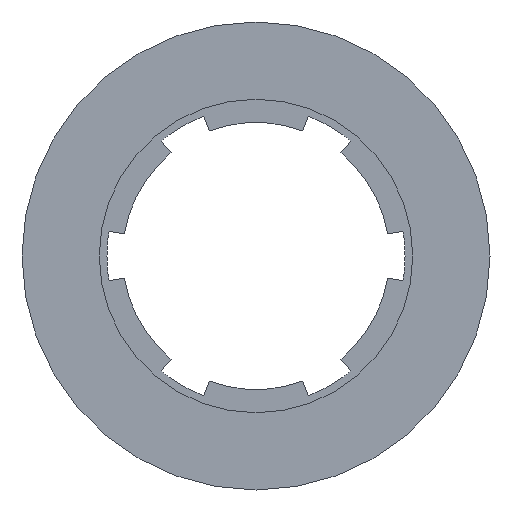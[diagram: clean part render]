
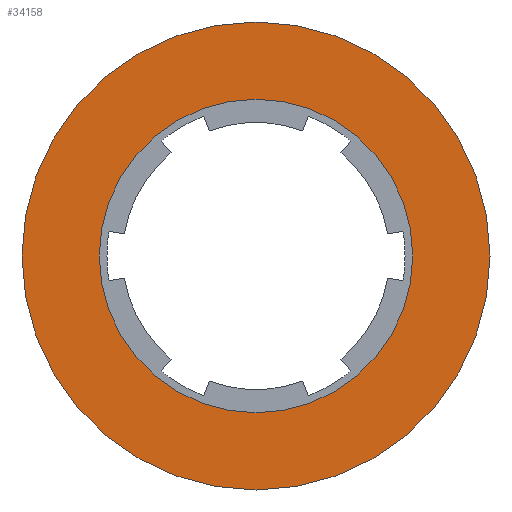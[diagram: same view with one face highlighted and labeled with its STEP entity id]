
A CAD part, left-side view. The second image highlights one B-rep face of the part: STEP entity #34158.
In plain terms, the highlighted planar face has unit normal (-1, 0, 0).
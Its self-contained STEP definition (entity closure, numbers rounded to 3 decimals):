
#15098 = CYLINDRICAL_SURFACE('',#15099,10.6);
#15099 = AXIS2_PLACEMENT_3D('',#15100,#15101,#15102);
#15100 = CARTESIAN_POINT('',(40.,-49.893,-53.918));
#15101 = DIRECTION('',(1.,0.,0.));
#15102 = DIRECTION('',(-0.,0.,1.));
#27418 = VERTEX_POINT('',#27419);
#27419 = CARTESIAN_POINT('',(40.,-49.893,-43.318));
#27440 = EDGE_CURVE('',#27418,#27418,#27441,.T.);
#27441 = SURFACE_CURVE('',#27442,(#27447,#27454),.PCURVE_S1.);
#27442 = CIRCLE('',#27443,10.6);
#27443 = AXIS2_PLACEMENT_3D('',#27444,#27445,#27446);
#27444 = CARTESIAN_POINT('',(40.,-49.893,-53.918));
#27445 = DIRECTION('',(1.,0.,0.));
#27446 = DIRECTION('',(-0.,0.,1.));
#27447 = PCURVE('',#15098,#27448);
#27448 = DEFINITIONAL_REPRESENTATION('',(#27449),#27453);
#27449 = LINE('',#27450,#27451);
#27450 = CARTESIAN_POINT('',(0.,0.));
#27451 = VECTOR('',#27452,1.);
#27452 = DIRECTION('',(1.,0.));
#27453 = ( GEOMETRIC_REPRESENTATION_CONTEXT(2) 
PARAMETRIC_REPRESENTATION_CONTEXT() REPRESENTATION_CONTEXT('2D SPACE',''
  ) );
#27454 = PCURVE('',#27455,#27460);
#27455 = PLANE('',#27456);
#27456 = AXIS2_PLACEMENT_3D('',#27457,#27458,#27459);
#27457 = CARTESIAN_POINT('',(40.,-49.893,-53.918));
#27458 = DIRECTION('',(1.,0.,0.));
#27459 = DIRECTION('',(-0.,0.,1.));
#27460 = DEFINITIONAL_REPRESENTATION('',(#27461),#27465);
#27461 = CIRCLE('',#27462,10.6);
#27462 = AXIS2_PLACEMENT_2D('',#27463,#27464);
#27463 = CARTESIAN_POINT('',(0.,0.));
#27464 = DIRECTION('',(1.,0.));
#27465 = ( GEOMETRIC_REPRESENTATION_CONTEXT(2) 
PARAMETRIC_REPRESENTATION_CONTEXT() REPRESENTATION_CONTEXT('2D SPACE',''
  ) );
#34158 = ADVANCED_FACE('',(#34159,#34162),#27455,.F.);
#34159 = FACE_BOUND('',#34160,.F.);
#34160 = EDGE_LOOP('',(#34161));
#34161 = ORIENTED_EDGE('',*,*,#27440,.T.);
#34162 = FACE_BOUND('',#34163,.F.);
#34163 = EDGE_LOOP('',(#34164));
#34164 = ORIENTED_EDGE('',*,*,#34165,.F.);
#34165 = EDGE_CURVE('',#34166,#34166,#34168,.T.);
#34166 = VERTEX_POINT('',#34167);
#34167 = CARTESIAN_POINT('',(40.,-49.893,-46.818));
#34168 = SURFACE_CURVE('',#34169,(#34174,#34181),.PCURVE_S1.);
#34169 = CIRCLE('',#34170,7.1);
#34170 = AXIS2_PLACEMENT_3D('',#34171,#34172,#34173);
#34171 = CARTESIAN_POINT('',(40.,-49.893,-53.918));
#34172 = DIRECTION('',(1.,0.,0.));
#34173 = DIRECTION('',(-0.,0.,1.));
#34174 = PCURVE('',#27455,#34175);
#34175 = DEFINITIONAL_REPRESENTATION('',(#34176),#34180);
#34176 = CIRCLE('',#34177,7.1);
#34177 = AXIS2_PLACEMENT_2D('',#34178,#34179);
#34178 = CARTESIAN_POINT('',(0.,0.));
#34179 = DIRECTION('',(1.,0.));
#34180 = ( GEOMETRIC_REPRESENTATION_CONTEXT(2) 
PARAMETRIC_REPRESENTATION_CONTEXT() REPRESENTATION_CONTEXT('2D SPACE',''
  ) );
#34181 = PCURVE('',#34182,#34187);
#34182 = CYLINDRICAL_SURFACE('',#34183,7.1);
#34183 = AXIS2_PLACEMENT_3D('',#34184,#34185,#34186);
#34184 = CARTESIAN_POINT('',(39.5,-49.893,-53.918));
#34185 = DIRECTION('',(1.,0.,0.));
#34186 = DIRECTION('',(-0.,0.,1.));
#34187 = DEFINITIONAL_REPRESENTATION('',(#34188),#34192);
#34188 = LINE('',#34189,#34190);
#34189 = CARTESIAN_POINT('',(0.,0.5));
#34190 = VECTOR('',#34191,1.);
#34191 = DIRECTION('',(1.,0.));
#34192 = ( GEOMETRIC_REPRESENTATION_CONTEXT(2) 
PARAMETRIC_REPRESENTATION_CONTEXT() REPRESENTATION_CONTEXT('2D SPACE',''
  ) );
